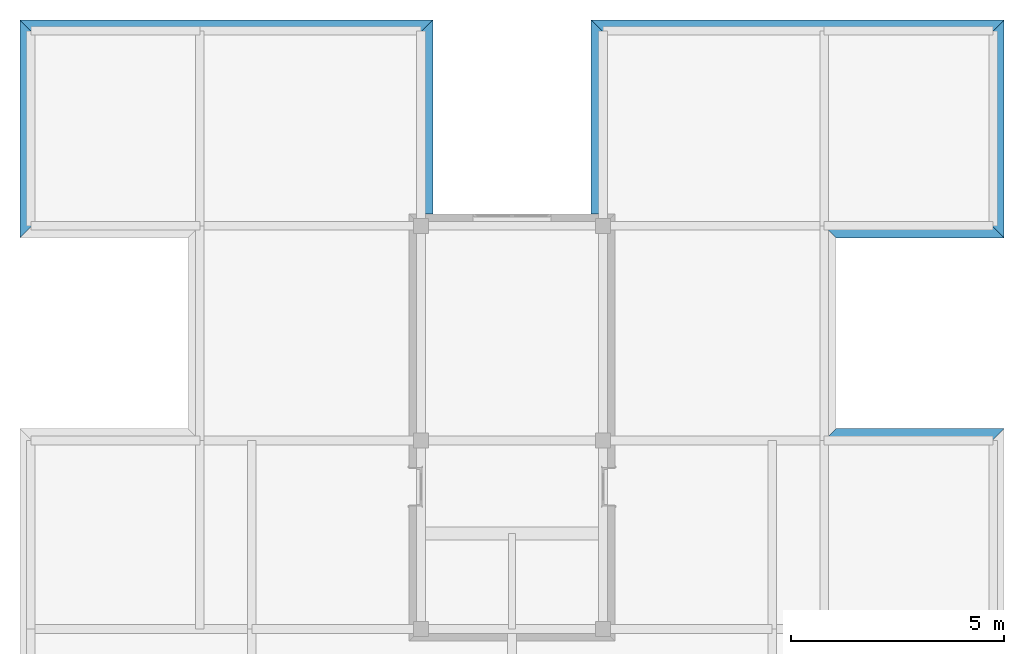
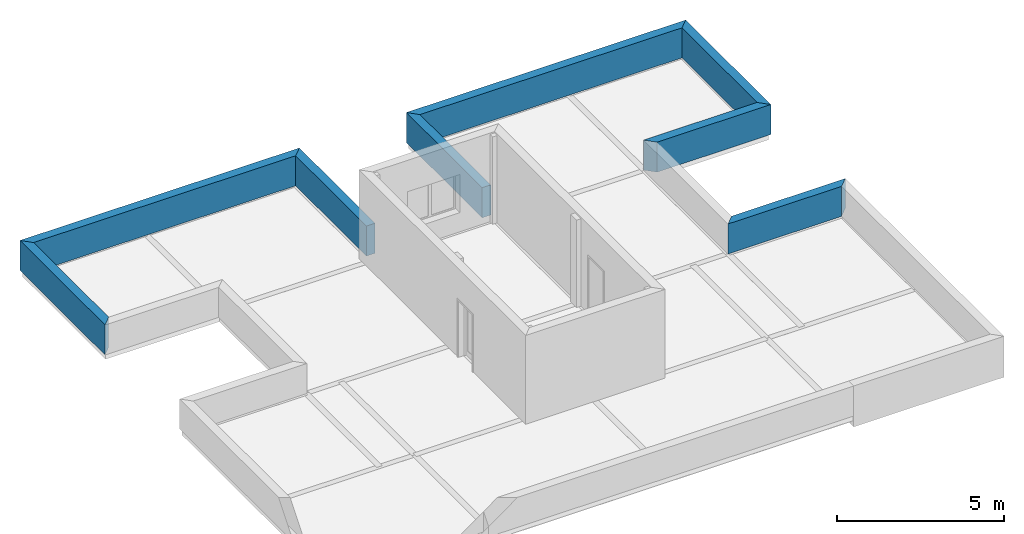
# One storey, part 2 of 3: 8 walls.
"""IFC2X3 building model written with IfcOpenShell, lengths in millimetres."""

from ifc_helpers import new_model, entity, si_unit, converted_unit, direction, frame, origin_with_axes, place, context, subcontext, project, spatial, polyline, outline, extrude, material, layer, layer_set, layer_usage, type_object, element, save


model = new_model("IFC2X3")

# Units and contexts
model_context = context("Model", 3, precision=1e-05, world=origin_with_axes(), true_north=direction((0.0, 1.0)))
body_context = subcontext(model_context, "Body", "Model", "MODEL_VIEW")
ifc_project = project(units=[si_unit("LENGTHUNIT", "METRE", prefix="MILLI"), si_unit("AREAUNIT", "SQUARE_METRE"), si_unit("VOLUMEUNIT", "CUBIC_METRE"), converted_unit("PLANEANGLEUNIT", "DEGREE", entity("IfcPlaneAngleMeasure", 0.017453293), si_unit("PLANEANGLEUNIT", "RADIAN"), dimensions=[0, 0, 0, 0, 0, 0, 0]), si_unit("SOLIDANGLEUNIT", "STERADIAN"), si_unit("MASSUNIT", "GRAM"), si_unit("TIMEUNIT", "SECOND"), si_unit("THERMODYNAMICTEMPERATUREUNIT", "DEGREE_CELSIUS"), si_unit("LUMINOUSINTENSITYUNIT", "LUMEN")], contexts=[model_context])

# Site, building, storey
site_placement = place(None, origin_with_axes())
site = spatial("IfcSite", under=ifc_project, at=site_placement, Name="Sitio", CompositionType="ELEMENT")
building_placement = place(site_placement, origin_with_axes())
building = spatial("IfcBuilding", under=site, at=building_placement, Name="Ejemplo_StruBIM", CompositionType="ELEMENT")
storey_placement = place(building_placement, frame((0.0, 0.0, 16002.0), z_axis=(0.0, 0.0, 1.0), x_axis=(1.0, 0.0, 0.0)))
storey = spatial("IfcBuildingStorey", under=building, at=storey_placement, Name="Cover", CompositionType="ELEMENT", Elevation=16002.0)

# Walls
ifc_material = material(Name="Bloque mampostería")
ifc_layer = layer(ifc_material, 300.0, ventilated="UNKNOWN")
ifc_layer_set = layer_set([ifc_layer], Name="Bloque mampostería 300")
ifc_layer_usage_1 = layer_usage(ifc_layer_set, "AXIS2", "NEGATIVE", 0.0)
wall_type = type_object("IfcWallType", Name="Bloque mampostería 11 3/4\"", PredefinedType="NOTDEFINED")
wall_1_placement = place(storey_placement, frame((18872.2, 9271.0, 0.0), z_axis=(0.0, 0.0, 1.0), x_axis=(1.0, 0.0, 0.0)))
element("IfcWallStandardCase", 1, at=wall_1_placement, inside=storey, type_object=wall_type, material=ifc_layer_usage_1, Name="Muro-034", context=body_context, shape_type="SweptSolid", body=[
    extrude(outline(polyline([(-300.0, -300.0), (3637.0, -300.0), (3937.0, 0.0), (0.0, 0.0), (-300.0, -300.0)])), origin_with_axes(), (0.0, 0.0, 1.0), 1100.0),
])
ifc_layer_usage_2 = layer_usage(ifc_layer_set, "AXIS2", "NEGATIVE", 0.0)
wall_2_placement = place(storey_placement, frame((22809.2, 13741.4, 0.0), z_axis=(0.0, 0.0, 1.0), x_axis=(-1.0, 0.0, 0.0)))
element("IfcWallStandardCase", 2, at=wall_2_placement, inside=storey, type_object=wall_type, material=ifc_layer_usage_2, Name="Muro-032", context=body_context, shape_type="SweptSolid", body=[
    extrude(outline(polyline([(300.0, -300.0), (4237.0, -300.0), (3937.0, 0.0), (0.0, 0.0), (300.0, -300.0)])), origin_with_axes(), (0.0, 0.0, 1.0), 1100.0),
])
ifc_layer_usage_3 = layer_usage(ifc_layer_set, "AXIS2", "NEGATIVE", 0.0)
wall_3_placement = place(storey_placement, frame((22809.2, 18846.8, 0.0), z_axis=(0.0, 0.0, 1.0), x_axis=(0.0, -1.0, 0.0)))
element("IfcWallStandardCase", 3, at=wall_3_placement, inside=storey, type_object=wall_type, material=ifc_layer_usage_3, Name="Muro-031", context=body_context, shape_type="SweptSolid", body=[
    extrude(outline(polyline([(300.0, -300.0), (4805.4, -300.0), (5105.4, 0.0), (0.0, 0.0), (300.0, -300.0)])), origin_with_axes(), (0.0, 0.0, 1.0), 1100.0),
])
ifc_layer_usage_4 = layer_usage(ifc_layer_set, "AXIS2", "NEGATIVE", 0.0)
wall_4_placement = place(storey_placement, frame((13131.8, 18846.8, 0.0), z_axis=(0.0, 0.0, 1.0), x_axis=(1.0, 0.0, 0.0)))
element("IfcWallStandardCase", 4, at=wall_4_placement, inside=storey, type_object=wall_type, material=ifc_layer_usage_4, Name="Muro-030", context=body_context, shape_type="SweptSolid", body=[
    extrude(outline(polyline([(300.0, -300.0), (9377.4, -300.0), (9677.4, 0.0), (0.0, 0.0), (300.0, -300.0)])), origin_with_axes(), (0.0, 0.0, 1.0), 1100.0),
])
ifc_layer_usage_5 = layer_usage(ifc_layer_set, "AXIS2", "NEGATIVE", 0.0)
wall_5_placement = place(storey_placement, frame((13131.8, 14300.2, 0.0), z_axis=(0.0, 0.0, 1.0), x_axis=(0.0, 1.0, 0.0)))
element("IfcWallStandardCase", 5, at=wall_5_placement, inside=storey, type_object=wall_type, material=ifc_layer_usage_5, Name="Muro-029", context=body_context, shape_type="SweptSolid", body=[
    extrude(outline(polyline([(0.0, -300.0), (4246.6, -300.0), (4546.6, 0.0), (0.0, 0.0), (0.0, -300.0)])), origin_with_axes(), (0.0, 0.0, 1.0), 1100.0),
])
ifc_layer_usage_6 = layer_usage(ifc_layer_set, "AXIS2", "NEGATIVE", 0.0)
wall_6_placement = place(storey_placement, frame((9423.4, 18846.8, 0.0), z_axis=(0.0, 0.0, 1.0), x_axis=(0.0, -1.0, 0.0)))
element("IfcWallStandardCase", 6, at=wall_6_placement, inside=storey, type_object=wall_type, material=ifc_layer_usage_6, Name="Muro-027", context=body_context, shape_type="SweptSolid", body=[
    extrude(outline(polyline([(300.0, -300.0), (4546.6, -300.0), (4546.6, 0.0), (0.0, 0.0), (300.0, -300.0)])), origin_with_axes(), (0.0, 0.0, 1.0), 1100.0),
])
ifc_layer_usage_7 = layer_usage(ifc_layer_set, "AXIS2", "NEGATIVE", 0.0)
wall_7_placement = place(storey_placement, frame((-254.0, 18846.8, 0.0), z_axis=(0.0, 0.0, 1.0), x_axis=(1.0, 0.0, 0.0)))
element("IfcWallStandardCase", 7, at=wall_7_placement, inside=storey, type_object=wall_type, material=ifc_layer_usage_7, Name="Muro-026", context=body_context, shape_type="SweptSolid", body=[
    extrude(outline(polyline([(300.0, -300.0), (9377.4, -300.0), (9677.4, 0.0), (0.0, 0.0), (300.0, -300.0)])), origin_with_axes(), (0.0, 0.0, 1.0), 1100.0),
])
ifc_layer_usage_8 = layer_usage(ifc_layer_set, "AXIS2", "NEGATIVE", 0.0)
wall_8_placement = place(storey_placement, frame((-254.0, 13741.4, 0.0), z_axis=(0.0, 0.0, 1.0), x_axis=(0.0, 1.0, 0.0)))
element("IfcWallStandardCase", 8, at=wall_8_placement, inside=storey, type_object=wall_type, material=ifc_layer_usage_8, Name="Muro-025", context=body_context, shape_type="SweptSolid", body=[
    extrude(outline(polyline([(300.0, -300.0), (4805.4, -300.0), (5105.4, 0.0), (0.0, 0.0), (300.0, -300.0)])), origin_with_axes(), (0.0, 0.0, 1.0), 1100.0),
])

save(model, "model.ifc")
